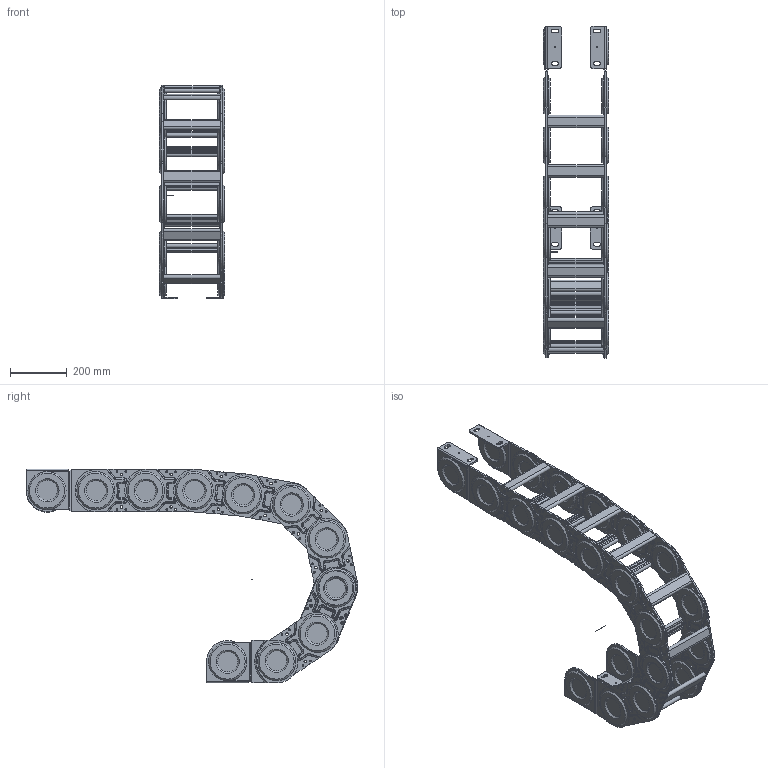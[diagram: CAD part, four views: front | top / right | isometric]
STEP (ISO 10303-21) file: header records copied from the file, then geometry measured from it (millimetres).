
FILE_DESCRIPTION((''),'2;1');
FILE_NAME('C:\Uebbing\TRACE PARTS\SLE\SLE 621\SLE 621 vereinfacht.stp','2013-05-29T08:04:40',('Uebbing'),(''),'Autodesk Inventor 10','Autodesk Inventor 10','');
FILE_SCHEMA(('AUTOMOTIVE_DESIGN { 1 0 10303 214 1 1 1 1 }'));
Length unit declared in the file: millimetre
Products named in the file (6): SLE 621 vereinfacht; SLE 620 Glied ohne Steg vereinfacht; Achse; SLE 620 Glied vereinfacht; SLE 620 Anschluss N einfach vereinfacht; SLE 620 Anschluss N doppelt vereinfacht
Assembly tree (12 placements, depth 2):
  SLE 621 vereinfacht
    SLE 620 Glied ohne Steg vereinfacht
    Achse
    SLE 620 Glied vereinfacht  x8
    SLE 620 Anschluss N einfach vereinfacht
    SLE 620 Anschluss N doppelt vereinfacht
Bounding box: 230.2 x 1169.85 x 754.36 mm (x, y, z)
Volume: 9896461.6 mm3; surface area: 3792883.6 mm2
Topology: 18 solids, 18 shells, 3903 faces, 9622 edges, 5899 vertices
Faces by surface type: plane 1294, cylinder 905, cone 896, bspline 548, torus 260
Full cylindrical faces by diameter (mm): 1 x1, 5 x4, 5.5 x32, 6.3 x72, 9 x36, 71 x48, 134 x48
Entity records: 33159 total; most frequent: CARTESIAN_POINT 7161, DIRECTION 5784, ORIENTED_EDGE 5092, EDGE_CURVE 2546, AXIS2_PLACEMENT_3D 2260, VERTEX_POINT 1638, EDGE_LOOP 1314, VECTOR 1264
